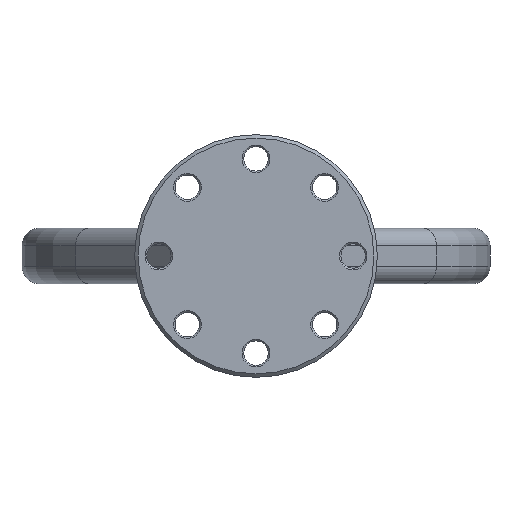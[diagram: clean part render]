
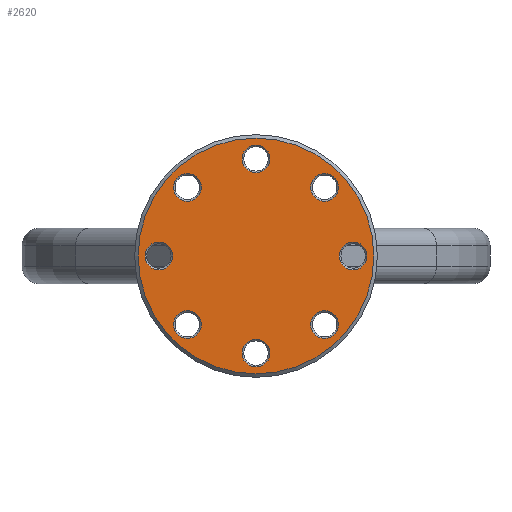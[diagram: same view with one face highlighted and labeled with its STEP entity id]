
A CAD part, front view. The second image highlights one B-rep face of the part: STEP entity #2620.
In plain terms, the highlighted planar face has unit normal (0, -1, 0).
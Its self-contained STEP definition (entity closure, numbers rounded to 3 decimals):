
#160=CIRCLE('',#2818,4.);
#161=CIRCLE('',#2820,34.);
#162=CIRCLE('',#2821,4.);
#163=CIRCLE('',#2822,4.);
#164=CIRCLE('',#2823,4.);
#165=CIRCLE('',#2824,4.);
#166=CIRCLE('',#2825,4.);
#167=CIRCLE('',#2826,4.);
#168=CIRCLE('',#2827,4.);
#290=FACE_BOUND('',#555,.T.);
#291=FACE_BOUND('',#556,.T.);
#292=FACE_BOUND('',#557,.T.);
#293=FACE_BOUND('',#558,.T.);
#294=FACE_BOUND('',#559,.T.);
#295=FACE_BOUND('',#560,.T.);
#296=FACE_BOUND('',#561,.T.);
#297=FACE_BOUND('',#562,.T.);
#314=PLANE('',#2819);
#381=FACE_OUTER_BOUND('',#554,.T.);
#554=EDGE_LOOP('',(#2036));
#555=EDGE_LOOP('',(#2037));
#556=EDGE_LOOP('',(#2038));
#557=EDGE_LOOP('',(#2039));
#558=EDGE_LOOP('',(#2040));
#559=EDGE_LOOP('',(#2041));
#560=EDGE_LOOP('',(#2042));
#561=EDGE_LOOP('',(#2043));
#562=EDGE_LOOP('',(#2044));
#1229=VERTEX_POINT('',#4505);
#1230=VERTEX_POINT('',#4509);
#1231=VERTEX_POINT('',#4511);
#1232=VERTEX_POINT('',#4513);
#1233=VERTEX_POINT('',#4515);
#1234=VERTEX_POINT('',#4517);
#1235=VERTEX_POINT('',#4519);
#1236=VERTEX_POINT('',#4521);
#1237=VERTEX_POINT('',#4523);
#1518=EDGE_CURVE('',#1229,#1229,#160,.T.);
#1519=EDGE_CURVE('',#1230,#1230,#161,.T.);
#1520=EDGE_CURVE('',#1231,#1231,#162,.T.);
#1521=EDGE_CURVE('',#1232,#1232,#163,.T.);
#1522=EDGE_CURVE('',#1233,#1233,#164,.T.);
#1523=EDGE_CURVE('',#1234,#1234,#165,.T.);
#1524=EDGE_CURVE('',#1235,#1235,#166,.T.);
#1525=EDGE_CURVE('',#1236,#1236,#167,.T.);
#1526=EDGE_CURVE('',#1237,#1237,#168,.T.);
#2036=ORIENTED_EDGE('',*,*,#1519,.F.);
#2037=ORIENTED_EDGE('',*,*,#1520,.F.);
#2038=ORIENTED_EDGE('',*,*,#1521,.F.);
#2039=ORIENTED_EDGE('',*,*,#1522,.F.);
#2040=ORIENTED_EDGE('',*,*,#1523,.F.);
#2041=ORIENTED_EDGE('',*,*,#1524,.F.);
#2042=ORIENTED_EDGE('',*,*,#1525,.F.);
#2043=ORIENTED_EDGE('',*,*,#1526,.F.);
#2044=ORIENTED_EDGE('',*,*,#1518,.F.);
#2620=ADVANCED_FACE('',(#381,#290,#291,#292,#293,#294,#295,#296,#297),#314,
 .F.);
#2818=AXIS2_PLACEMENT_3D('',#4507,#3272,#3273);
#2819=AXIS2_PLACEMENT_3D('',#4508,#3274,#3275);
#2820=AXIS2_PLACEMENT_3D('',#4510,#3276,#3277);
#2821=AXIS2_PLACEMENT_3D('',#4512,#3278,#3279);
#2822=AXIS2_PLACEMENT_3D('',#4514,#3280,#3281);
#2823=AXIS2_PLACEMENT_3D('',#4516,#3282,#3283);
#2824=AXIS2_PLACEMENT_3D('',#4518,#3284,#3285);
#2825=AXIS2_PLACEMENT_3D('',#4520,#3286,#3287);
#2826=AXIS2_PLACEMENT_3D('',#4522,#3288,#3289);
#2827=AXIS2_PLACEMENT_3D('',#4524,#3290,#3291);
#3272=DIRECTION('center_axis',(0.,-1.,0.));
#3273=DIRECTION('ref_axis',(-1.,0.,0.));
#3274=DIRECTION('center_axis',(0.,1.,0.));
#3275=DIRECTION('ref_axis',(0.,0.,1.));
#3276=DIRECTION('center_axis',(0.,1.,0.));
#3277=DIRECTION('ref_axis',(-1.,0.,0.));
#3278=DIRECTION('center_axis',(0.,-1.,0.));
#3279=DIRECTION('ref_axis',(-1.,0.,0.));
#3280=DIRECTION('center_axis',(0.,-1.,0.));
#3281=DIRECTION('ref_axis',(-1.,0.,0.));
#3282=DIRECTION('center_axis',(0.,-1.,0.));
#3283=DIRECTION('ref_axis',(-1.,0.,0.));
#3284=DIRECTION('center_axis',(0.,-1.,0.));
#3285=DIRECTION('ref_axis',(-1.,0.,0.));
#3286=DIRECTION('center_axis',(0.,-1.,0.));
#3287=DIRECTION('ref_axis',(-1.,0.,0.));
#3288=DIRECTION('center_axis',(0.,-1.,0.));
#3289=DIRECTION('ref_axis',(-1.,0.,0.));
#3290=DIRECTION('center_axis',(0.,-1.,0.));
#3291=DIRECTION('ref_axis',(-1.,0.,0.));
#4505=CARTESIAN_POINT('',(32.,-87.442,0.));
#4507=CARTESIAN_POINT('Origin',(28.,-87.442,0.));
#4508=CARTESIAN_POINT('Origin',(0.,-87.442,0.));
#4509=CARTESIAN_POINT('',(34.,-87.442,0.));
#4510=CARTESIAN_POINT('Origin',(0.,-87.442,0.));
#4511=CARTESIAN_POINT('',(4.,-87.442,-28.));
#4512=CARTESIAN_POINT('Origin',(0.,-87.442,-28.));
#4513=CARTESIAN_POINT('',(4.,-87.442,28.));
#4514=CARTESIAN_POINT('Origin',(0.,-87.442,28.));
#4515=CARTESIAN_POINT('',(23.799,-87.442,-19.799));
#4516=CARTESIAN_POINT('Origin',(19.799,-87.442,-19.799));
#4517=CARTESIAN_POINT('',(-15.799,-87.442,19.799));
#4518=CARTESIAN_POINT('Origin',(-19.799,-87.442,19.799));
#4519=CARTESIAN_POINT('',(23.799,-87.442,19.799));
#4520=CARTESIAN_POINT('Origin',(19.799,-87.442,19.799));
#4521=CARTESIAN_POINT('',(-15.799,-87.442,-19.799));
#4522=CARTESIAN_POINT('Origin',(-19.799,-87.442,-19.799));
#4523=CARTESIAN_POINT('',(-24.,-87.442,0.));
#4524=CARTESIAN_POINT('Origin',(-28.,-87.442,0.));
